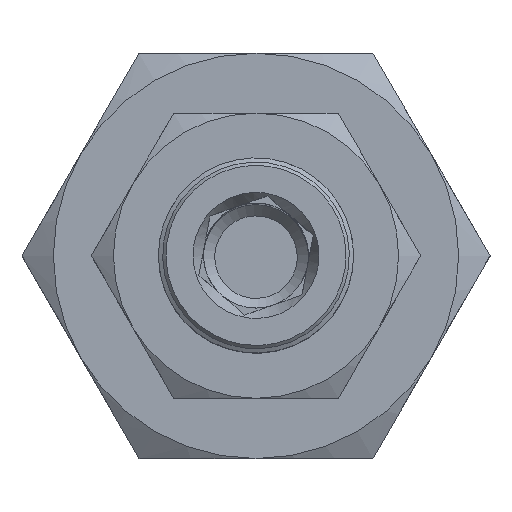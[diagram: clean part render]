
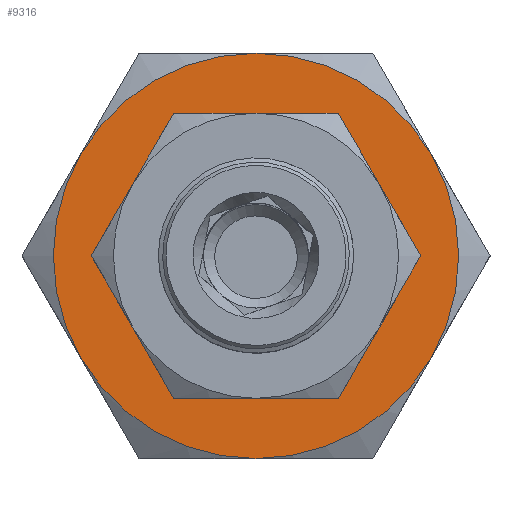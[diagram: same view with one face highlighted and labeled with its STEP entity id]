
A CAD part, top view. The second image highlights one B-rep face of the part: STEP entity #9316.
In plain terms, the highlighted planar face has unit normal (0, 0, 1).
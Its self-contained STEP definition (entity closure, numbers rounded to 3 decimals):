
#316 = AXIS2_PLACEMENT_3D ( 'NONE', #4777, #7802, #690 ) ;
#690 = DIRECTION ( 'NONE',  ( -1., 0., 0. ) ) ;
#906 = ORIENTED_EDGE ( 'NONE', *, *, #8912, .F. ) ;
#1054 = CARTESIAN_POINT ( 'NONE',  ( 11.691, 6.75, 1.203 ) ) ;
#1269 = EDGE_CURVE ( 'NONE', #6091, #2593, #9369, .T. ) ;
#1867 = CIRCLE ( 'NONE', #4825, 13.5 ) ;
#2084 = CARTESIAN_POINT ( 'NONE',  ( -11.691, -6.75, 1.203 ) ) ;
#2120 = EDGE_LOOP ( 'NONE', ( #5740, #3635, #4511, #4182, #906, #9114 ) ) ;
#2178 = CARTESIAN_POINT ( 'NONE',  ( 15.588, 0., 1.203 ) ) ;
#2515 = CARTESIAN_POINT ( 'NONE',  ( -11.691, 6.75, 1.203 ) ) ;
#2593 = VERTEX_POINT ( 'NONE', #1054 ) ;
#2705 = CARTESIAN_POINT ( 'NONE',  ( 0., 0., 1.203 ) ) ;
#2829 = EDGE_LOOP ( 'NONE', ( #8602 ) ) ;
#3093 = VERTEX_POINT ( 'NONE', #2084 ) ;
#3352 = CIRCLE ( 'NONE', #11130, 6.5 ) ;
#3392 = DIRECTION ( 'NONE',  ( -1., 0., 0. ) ) ;
#3635 = ORIENTED_EDGE ( 'NONE', *, *, #5660, .F. ) ;
#4038 = VERTEX_POINT ( 'NONE', #12113 ) ;
#4182 = ORIENTED_EDGE ( 'NONE', *, *, #11007, .F. ) ;
#4326 = CARTESIAN_POINT ( 'NONE',  ( 0., 0., 1.203 ) ) ;
#4511 = ORIENTED_EDGE ( 'NONE', *, *, #8456, .F. ) ;
#4635 = DIRECTION ( 'NONE',  ( -1., 0., 0. ) ) ;
#4777 = CARTESIAN_POINT ( 'NONE',  ( 0., 0., 1.203 ) ) ;
#4825 = AXIS2_PLACEMENT_3D ( 'NONE', #4326, #11003, #7016 ) ;
#4829 = DIRECTION ( 'NONE',  ( -1., 0., 0. ) ) ;
#5083 = DIRECTION ( 'NONE',  ( 0., 0., -1. ) ) ;
#5296 = CIRCLE ( 'NONE', #6345, 13.5 ) ;
#5452 = CIRCLE ( 'NONE', #12014, 13.5 ) ;
#5660 = EDGE_CURVE ( 'NONE', #3093, #10316, #7031, .T. ) ;
#5740 = ORIENTED_EDGE ( 'NONE', *, *, #7074, .F. ) ;
#6040 = AXIS2_PLACEMENT_3D ( 'NONE', #2705, #6726, #10763 ) ;
#6091 = VERTEX_POINT ( 'NONE', #10116 ) ;
#6345 = AXIS2_PLACEMENT_3D ( 'NONE', #10774, #12986, #4829 ) ;
#6726 = DIRECTION ( 'NONE',  ( 0., 0., -1. ) ) ;
#7016 = DIRECTION ( 'NONE',  ( -1., 0., 0. ) ) ;
#7031 = CIRCLE ( 'NONE', #316, 13.5 ) ;
#7074 = EDGE_CURVE ( 'NONE', #10316, #6091, #7293, .T. ) ;
#7293 = CIRCLE ( 'NONE', #6040, 13.5 ) ;
#7657 = DIRECTION ( 'NONE',  ( 0., 0., -1. ) ) ;
#7711 = FACE_OUTER_BOUND ( 'NONE', #2120, .T. ) ;
#7802 = DIRECTION ( 'NONE',  ( 0., 0., -1. ) ) ;
#8103 = EDGE_CURVE ( 'NONE', #4038, #4038, #3352, .T. ) ;
#8397 = CARTESIAN_POINT ( 'NONE',  ( 0., 0., 1.203 ) ) ;
#8402 = AXIS2_PLACEMENT_3D ( 'NONE', #2178, #5083, #10031 ) ;
#8456 = EDGE_CURVE ( 'NONE', #12751, #3093, #5452, .T. ) ;
#8500 = CARTESIAN_POINT ( 'NONE',  ( 11.691, -6.75, 1.203 ) ) ;
#8602 = ORIENTED_EDGE ( 'NONE', *, *, #8103, .F. ) ;
#8912 = EDGE_CURVE ( 'NONE', #2593, #12511, #1867, .T. ) ;
#9114 = ORIENTED_EDGE ( 'NONE', *, *, #1269, .F. ) ;
#9316 = ADVANCED_FACE ( 'NONE', ( #12774, #7711 ), #12977, .F. ) ;
#9369 = CIRCLE ( 'NONE', #12549, 13.5 ) ;
#9496 = DIRECTION ( 'NONE',  ( 0., 0., 1. ) ) ;
#9673 = CARTESIAN_POINT ( 'NONE',  ( 0., 0., 1.203 ) ) ;
#10018 = CARTESIAN_POINT ( 'NONE',  ( 0., -13.5, 1.203 ) ) ;
#10031 = DIRECTION ( 'NONE',  ( -1., 0., 0. ) ) ;
#10116 = CARTESIAN_POINT ( 'NONE',  ( 0., 13.5, 1.203 ) ) ;
#10316 = VERTEX_POINT ( 'NONE', #2515 ) ;
#10763 = DIRECTION ( 'NONE',  ( -1., 0., 0. ) ) ;
#10774 = CARTESIAN_POINT ( 'NONE',  ( 0., 0., 1.203 ) ) ;
#11003 = DIRECTION ( 'NONE',  ( 0., 0., -1. ) ) ;
#11007 = EDGE_CURVE ( 'NONE', #12511, #12751, #5296, .T. ) ;
#11130 = AXIS2_PLACEMENT_3D ( 'NONE', #9673, #9496, #11477 ) ;
#11477 = DIRECTION ( 'NONE',  ( 1., 0., 0. ) ) ;
#12014 = AXIS2_PLACEMENT_3D ( 'NONE', #8397, #12461, #3392 ) ;
#12113 = CARTESIAN_POINT ( 'NONE',  ( 6.5, 0., 1.203 ) ) ;
#12461 = DIRECTION ( 'NONE',  ( 0., 0., -1. ) ) ;
#12511 = VERTEX_POINT ( 'NONE', #8500 ) ;
#12542 = CARTESIAN_POINT ( 'NONE',  ( 0., 0., 1.203 ) ) ;
#12549 = AXIS2_PLACEMENT_3D ( 'NONE', #12542, #7657, #4635 ) ;
#12751 = VERTEX_POINT ( 'NONE', #10018 ) ;
#12774 = FACE_BOUND ( 'NONE', #2829, .T. ) ;
#12977 = PLANE ( 'NONE',  #8402 ) ;
#12986 = DIRECTION ( 'NONE',  ( 0., 0., -1. ) ) ;
